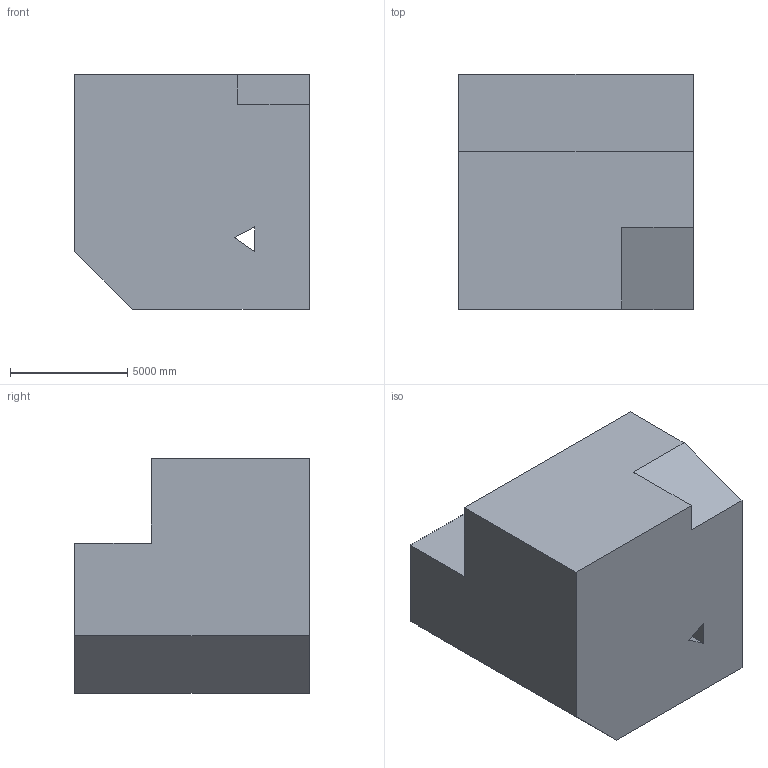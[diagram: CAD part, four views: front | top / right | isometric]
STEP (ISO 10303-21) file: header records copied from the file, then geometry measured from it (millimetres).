
FILE_DESCRIPTION (( 'STEP AP203' ), '1' );
FILE_NAME ('1301.STEP', '2022-08-18T13:38:34', ( 'user' ), ( '' ), 'SwSTEP 2.0', 'SolidWorks 2021', '' );
FILE_SCHEMA (( 'CONFIG_CONTROL_DESIGN' ));
Length unit declared in the file: centimetre
Products named in the file (1): 1301
Bounding box: 10000 x 10000 x 10000 mm (x, y, z)
Volume: 840715980063.7 mm3; surface area: 582822361.8 mm2
Topology: 1 solids, 1 shells, 14 faces, 36 edges, 24 vertices
Faces by surface type: plane 14
Entity records: 501 total; most frequent: CARTESIAN_POINT 75, ORIENTED_EDGE 72, DIRECTION 66, LINE 36, EDGE_CURVE 36, VECTOR 36, VERTEX_POINT 24, EDGE_LOOP 16
